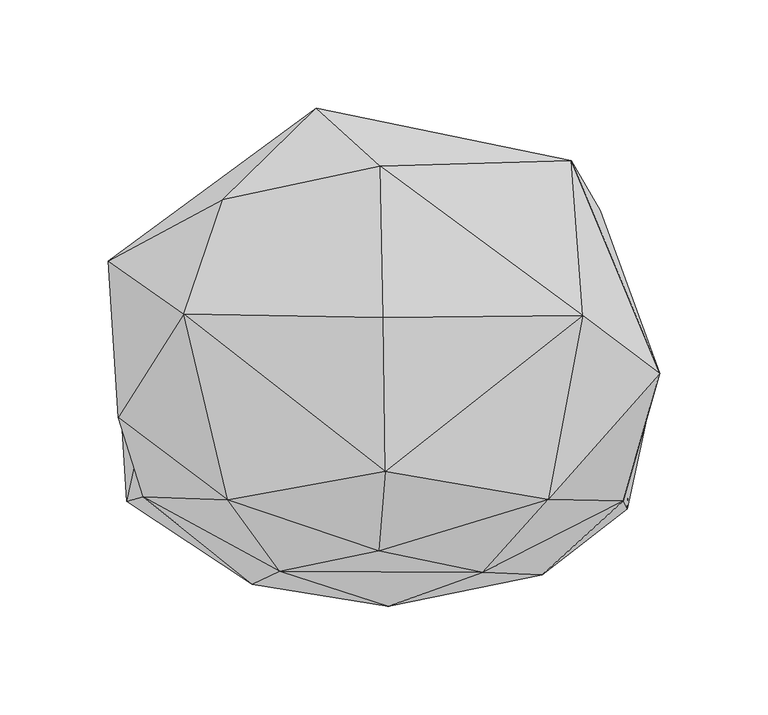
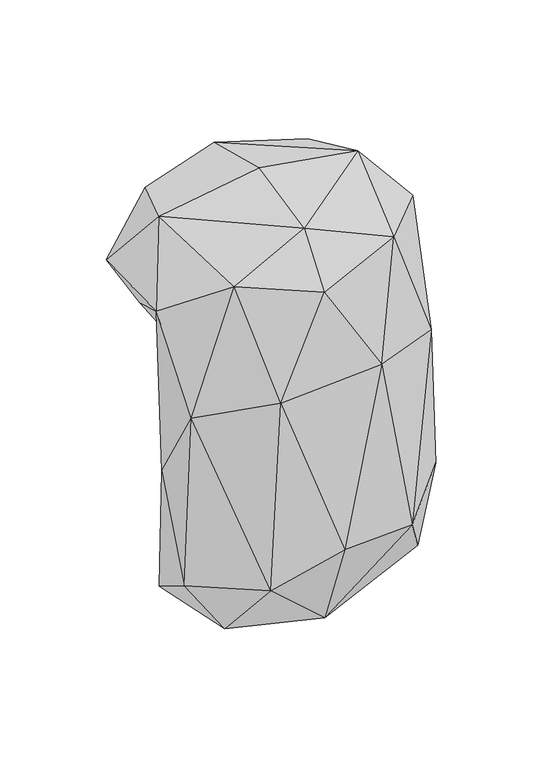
"""IFC4 building model written with IfcOpenShell, lengths in millimetres: geographic element geometry, Enscape AssetDefinition - Creeper Plant 015 Bower Vine : Enscape AssetDefinition - Creeper Plant 015 Bower Vine 4."""

from ifc_helpers import new_model, si_unit, origin, place, context, project, spatial, triangles, source, transform, mapped, element, save


def geographic_element_84fd217a(model_context):
    return source(origin(), model_context, "Body", "Tessellation", [
        triangles([(-110.9573534, 0.0, 0.0), (110.9573534, 0.0, 0.0), (101.4977564, 0.0, -81.6656911), (118.4304801, -23.0240307, -30.1880829), (-125.3664303, -22.5073789, 29.7782968), (-109.6437344, 31.4388128, 0.0), (94.4561804, 52.4340542, 0.0), (-80.4737489, 70.0014003, 0.0), (-130.0055911, 49.7776439, 38.0019568), (-77.3417817, 78.0413393, 73.8283924), (-95.2498547, 25.3487503, 83.2283864), (-34.1059124, 120.1941715, 39.9777197), (-76.8177312, 80.389479, 4.6642391), (88.8901684, 24.5858994, 83.5847418), (-4.6999976, 93.453707, 83.1946857), (-3.1303177, 23.6487768, 100.0000008), (-0.663384, 99.6983113, 1.5783114), (-0.6711934, 97.5951239, 0.0), (83.4404737, 96.1109485, 53.8138392), (96.9823071, 73.0014216, 14.0280648), (5.6687685, 94.2667115, 0.0), (-7.136927, 94.4380946, 0.0), (72.8645568, -60.3021831, 56.6063014), (124.2694224, -2.1130465, 43.6842885), (-2.1944282, -47.3522196, 83.260452), (-5.1952753, -84.1618051, 43.6526407), (42.7044201, -93.9292503, -37.7352035), (107.5356146, -60.9963949, -46.6251292), (109.4423296, -64.7325541, -175.3093029), (70.1333372, -95.1693, -203.6539573), (112.5960797, -24.3064084, -245.0221626), (92.9974849, -64.4292205, -250.5421381), (72.9718313, 0.0, -260.1172259), (112.4390762, -21.5480602, -142.6263324), (34.7438141, -22.9677205, -302.2244305), (-0.8516305, -109.6671523, -194.5470095), (3.2067671, -70.2656874, -286.5066762), (-123.7683901, -24.606038, -238.9378501), (-86.3788482, 0.0, -252.3230978), (-73.1074698, -42.4438346, -287.3574964), (-15.0087541, 0.0, -289.9374261), (11.194091, 0.0, -294.3534356), (-108.770323, -2.62682, -144.1824511), (88.3940686, 0.0, -147.0686212), (97.2453542, 0.0, -209.5298886), (-102.6584686, 0.0, -240.1557082), (-113.9207808, -59.2322948, -56.7846835), (-63.5562178, -99.4253992, -219.2496441), (-121.5653269, -61.1521676, -217.0441283), (-75.0047241, -60.6145551, 59.4382233), (-50.9042421, -93.6053784, -43.0204936), (96.7155446, 0.0, -242.4294429)], [[44, 3, 34], [45, 44, 34], [34, 52, 45], [38, 46, 39], [25, 14, 16], [27, 26, 51], [51, 48, 36], [27, 51, 36], [51, 26, 50], [26, 25, 50], [48, 51, 47], [50, 47, 51], [48, 47, 49], [43, 38, 49], [38, 43, 46], [43, 49, 47], [39, 46, 43], [43, 45, 52], [43, 44, 45], [43, 3, 44], [43, 52, 33], [43, 33, 42], [43, 41, 39], [43, 42, 41], [39, 41, 40], [48, 49, 40], [38, 39, 40], [40, 49, 38], [48, 40, 37], [36, 48, 37], [41, 35, 40], [41, 42, 35], [35, 37, 40], [35, 42, 33], [34, 31, 52], [31, 33, 52], [31, 35, 33], [37, 35, 32], [31, 32, 35], [37, 30, 36], [32, 30, 37], [30, 27, 36], [32, 29, 30], [31, 29, 32], [34, 29, 31], [34, 4, 29], [4, 34, 3], [28, 27, 30], [28, 30, 29], [4, 28, 29], [23, 14, 25], [28, 23, 27], [25, 26, 23], [23, 26, 27], [4, 24, 28], [14, 23, 24], [23, 28, 24], [7, 8, 22], [22, 21, 7], [22, 18, 21], [20, 7, 21], [19, 24, 20], [24, 19, 14], [20, 21, 17], [17, 22, 8], [20, 17, 19], [17, 18, 22], [17, 21, 18], [17, 8, 13], [17, 13, 12], [12, 19, 17], [14, 15, 16], [19, 12, 15], [14, 19, 15], [11, 50, 25], [15, 11, 16], [11, 25, 16], [15, 10, 11], [10, 15, 12], [8, 9, 13], [9, 12, 13], [10, 12, 9], [10, 9, 11], [50, 5, 47], [47, 5, 43], [9, 5, 11], [50, 11, 5], [8, 6, 9], [5, 9, 6], [7, 6, 8], [5, 6, 1], [5, 1, 43], [7, 1, 6], [24, 4, 2], [4, 3, 2], [20, 2, 7], [20, 24, 2], [43, 2, 3], [43, 1, 2], [7, 2, 1]]),
    ])


if __name__ == "__main__":
    model = new_model("IFC4")
    model_context = context("Model", 3, world=origin())
    ifc_project = project(units=[si_unit("LENGTHUNIT", "METRE", prefix="MILLI")], contexts=[model_context])
    site = spatial("IfcSite", under=ifc_project)
    building = spatial("IfcBuilding", under=site)
    placement = place(None, origin())
    geographic_element_shape = geographic_element_84fd217a(model_context)
    element("IfcGeographicElement", 1, ObjectType="Enscape AssetDefinition - Creeper Plant 015 Bower Vine : Enscape AssetDefinition - Creeper Plant 015 Bower Vine 4", at=placement, inside=building, context=model_context, shape_type="MappedRepresentation", body=[
        mapped(geographic_element_shape, transform((0.0, 0.0, 0.0), x_axis=(1.0, 0.0, 0.0), y_axis=(0.0, 1.0, 0.0), z_axis=(0.0, 0.0, 1.0))),
    ])
    save(model, "model.ifc")
